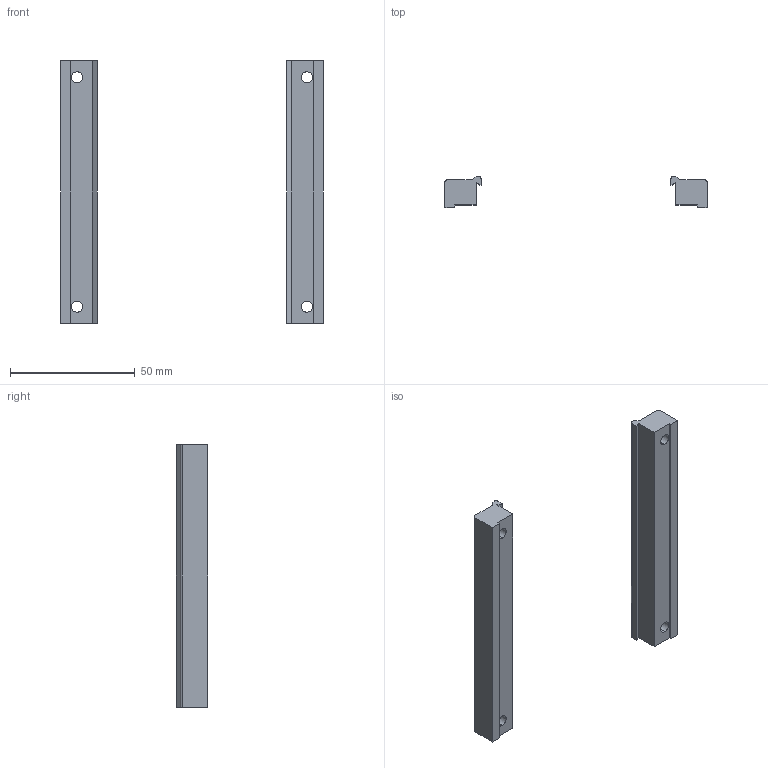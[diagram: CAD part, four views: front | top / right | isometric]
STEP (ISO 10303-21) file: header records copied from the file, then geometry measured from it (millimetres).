
FILE_DESCRIPTION (( 'STEP AP203' ), '1' );
FILE_NAME ('Befestigungssatz B 80.STEP', '2002-07-08T12:55:19', ( '' ), ( '' ), 'SwSTEP 2.0', 'SolidWorks 2002127', '' );
FILE_SCHEMA (( 'CONFIG_CONTROL_DESIGN' ));
Length unit declared in the file: millimetre
Products named in the file (2): Befestigungssatz B 80; Klemmleiste-+-D001997_ _PDB_050633
Assembly tree (2 placements, depth 2):
  Befestigungssatz B 80
    Klemmleiste-+-D001997_ _PDB_050633  x2
Bounding box: 105 x 12.5 x 105 mm (x, y, z)
Volume: 27260.2 mm3; surface area: 12466.6 mm2
Topology: 2 solids, 2 shells, 48 faces, 120 edges, 80 vertices
Faces by surface type: plane 28, cylinder 20
Entity records: 960 total; most frequent: DIRECTION 138, CARTESIAN_POINT 129, ORIENTED_EDGE 120, EDGE_CURVE 60, AXIS2_PLACEMENT_3D 49, LINE 40, VECTOR 40, VERTEX_POINT 40
